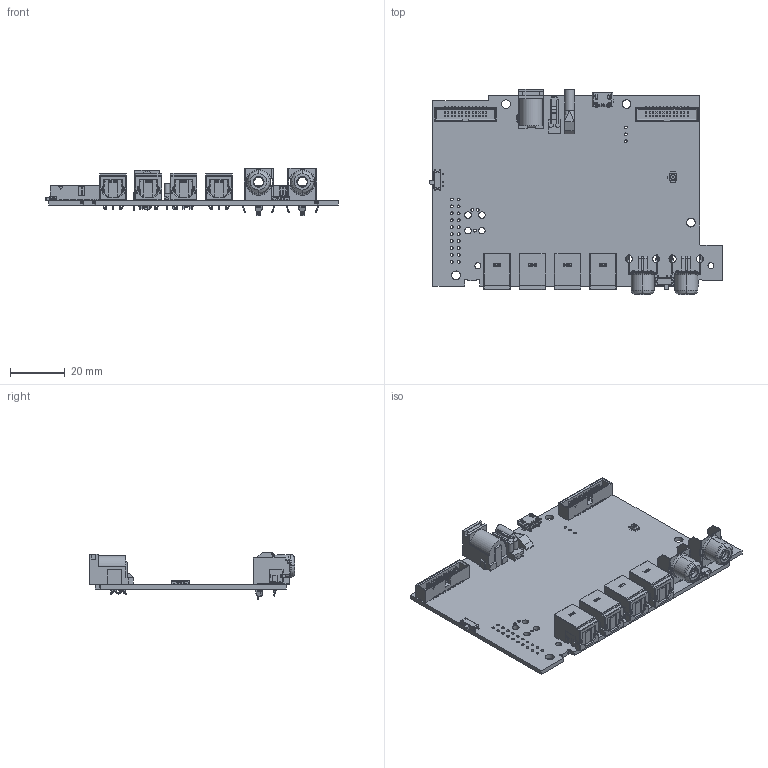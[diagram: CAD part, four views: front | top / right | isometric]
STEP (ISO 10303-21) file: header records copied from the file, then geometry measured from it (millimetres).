
FILE_DESCRIPTION(('FreeCAD Model'),'2;1');
FILE_NAME('Open CASCADE Shape Model','2024-06-14T11:25:01',( 'Dieter Steinwedel'),('hifidom Inh. Dieter Steinwedel'), 'Open CASCADE STEP processor 7.6','FreeCAD','Unknown');
FILE_SCHEMA(('AUTOMOTIVE_DESIGN { 1 0 10303 214 1 1 1 1 }'));
Length unit declared in the file: millimetre
Products named in the file (32): usb-soundcard; CON_DC_5.5mm_2.1mm; CON_DC; CON_SPDIF_TX_1; SPDIF_TX; CON_SPDIF_TX_2; CON_SPDIF_TX_3; CON_SPDIF_TX_4; CON_IDC_1; CON_IDC; CON_HF; ASSEMBLY003; Cut; Fillet; Cube; MISC_LightPipe; LightPipe; CON_IDC_LATCHED; Unnamed; SW_1; SW; CON_RCA_Red; RCA; CON_USB; CUI_DEVICES_UJ2-MIBH2-4-SMT; SW_2; SW001; CON_RCA_White; RCA001; PCB; CON_IDC_2; CON_IDC001
Assembly tree (34 placements, depth 3):
  usb-soundcard
    CON_DC_5.5mm_2.1mm
      CON_DC
    CON_SPDIF_TX_1
      SPDIF_TX
    CON_SPDIF_TX_2
      SPDIF_TX
    CON_SPDIF_TX_3
      SPDIF_TX
    CON_SPDIF_TX_4
      SPDIF_TX
    CON_IDC_1
      CON_IDC
    CON_HF
      ASSEMBLY003
      Cut
      Fillet
      Cube
    MISC_LightPipe
      LightPipe
    CON_IDC_LATCHED
      Unnamed
    SW_1
      SW
    CON_RCA_Red
      RCA
    CON_USB
      CUI_DEVICES_UJ2-MIBH2-4-SMT
    SW_2
      SW001
    CON_RCA_White
      RCA001
    PCB
    CON_IDC_2
      CON_IDC001
Bounding box: 107.13 x 75.42 x 17.52 mm (x, y, z)
Volume: 17259.7 mm3; surface area: 25277.9 mm2
Topology: 24 solids, 1136 shells, 4492 faces, 40968 edges, 144160 vertices
Faces by surface type: plane 2456, bspline 1184, cylinder 795, cone 52, sphere 5
Full cylindrical faces by diameter (mm): 0.5 x1, 0.8 x16, 0.9 x2, 0.95 x4, 0.991 x3, 1 x23, 1.6 x8, 1.7 x2, 1.8 x1, 1.93 x2, 2 x1, 2.2 x2, 2.375 x4, 2.6 x6, 3.2 x4
Entity records: 767128 total; most frequent: CARTESIAN_POINT 263029, DIRECTION 44886, LINE 32245, VECTOR 32245, GEOMETRIC_CURVE_SET 26629, TRIMMED_CURVE 26608, SURFACE_STYLE_USAGE 24069, SURFACE_SIDE_STYLE 24069
